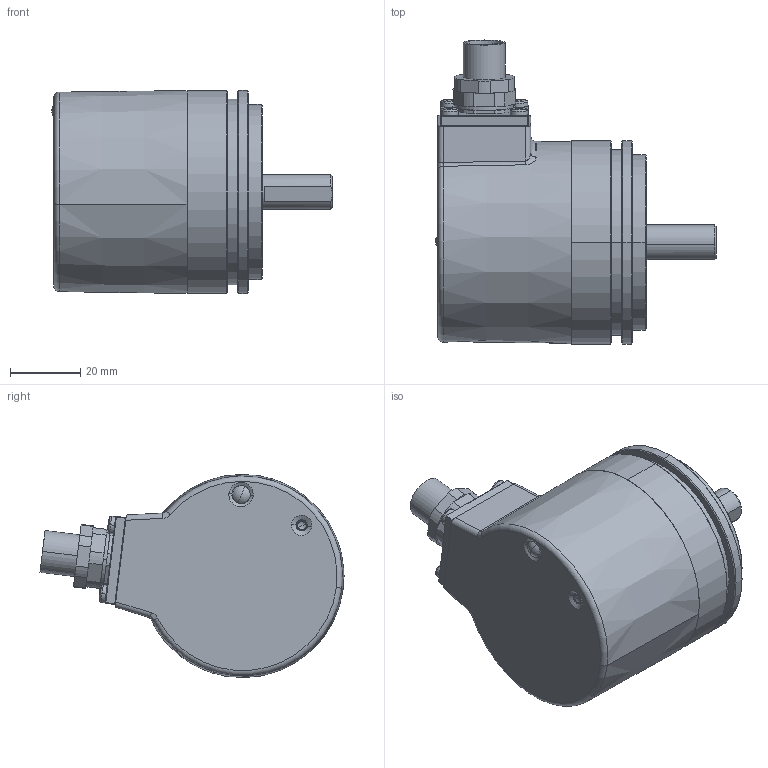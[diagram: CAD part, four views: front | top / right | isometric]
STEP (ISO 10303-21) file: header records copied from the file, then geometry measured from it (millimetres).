
FILE_DESCRIPTION (( 'STEP AP203' ), '1' );
FILE_NAME ('8.F5868.422E.2123.STEP', '2014-02-10T07:27:53', ( 'HeirlerN' ), ( 'Microsoft' ), 'SwSTEP 2.0', 'SolidWorks 2013', '' );
FILE_SCHEMA (( 'CONFIG_CONTROL_DESIGN' ));
Length unit declared in the file: millimetre
Products named in the file (1): 8.F5868.422E.2123
Bounding box: 80.15 x 86.8 x 58 mm (x, y, z)
Volume: 81354.3 mm3; surface area: 45144.1 mm2
Topology: 12 solids, 12 shells, 849 faces, 1975 edges, 1184 vertices
Faces by surface type: cylinder 269, plane 253, cone 187, torus 92, bspline 36, sphere 12
Entity records: 25356 total; most frequent: CARTESIAN_POINT 5916, DIRECTION 4333, ORIENTED_EDGE 3878, EDGE_CURVE 1939, AXIS2_PLACEMENT_3D 1778, VERTEX_POINT 1184, CIRCLE 964, EDGE_LOOP 935
